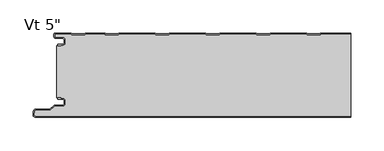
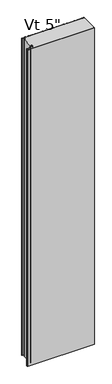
"""IFC4 building model written with IfcOpenShell, lengths in millimetres: plate geometry."""

from ifc_helpers import new_model, si_unit, point, frame, frame_2d, origin, origin_with_axes, place, context, project, spatial, polyline, circle_curve, trimmed, segment, composite_curve, outline, extrude, source, transform, mapped, element, save
from ifc_brep_helpers import plane_surface, cylinder_surface, revolved_surface, advanced_brep


def plate_c9e07188(model_context):
    return source(origin(), model_context, "Body", "SolidModel", [
        advanced_brep(
        [(-219.9686911, -17.0015243, 2400.0), (-220.9686883, -18.0015275, 2400.0), (-219.9686911, -19.0015188, 2400.0), (-215.9684874, -19.0015188, 2400.0), (-215.9684874, -18.0015243, 2400.0), (-213.2762776, -18.0015243, 2400.0), (-209.9762819, -14.7015286, 2400.0), (-209.9762819, -10.3015374, 2400.0), (-213.2762774, -7.0015419, 2400.0), (-223.6962563, -7.0015419, 2400.0), (-225.4662505, -5.2315477, 2400.0), (-225.4662505, -1.0, 2400.0), (-200.9659739, -1.0, 2400.0), (-199.5803313, -2.2002391, 2400.0), (-180.205165, -2.2002391, 2400.0), (-178.819532, -1.0000084, 2400.0), (-150.1661166, -1.0000084, 2400.0), (-148.7804837, -2.2002391, 2400.0), (-129.4053174, -2.2002391, 2400.0), (-128.0196844, -1.0000084, 2400.0), (-73.966269, -1.0000084, 2400.0), (-72.5806361, -2.2002391, 2400.0), (-53.2054698, -2.2002391, 2400.0), (-51.8198368, -1.0000084, 2400.0), (2.2335786, -1.0000084, 2400.0), (3.6192115, -2.2002391, 2400.0), (22.9943778, -2.2002391, 2400.0), (24.3800108, -1.0000084, 2400.0), (78.4334262, -1.0000084, 2400.0), (79.8190591, -2.2002391, 2400.0), (99.1942254, -2.2002391, 2400.0), (100.5798584, -1.0000084, 2400.0), (154.6332738, -1.0000084, 2400.0), (156.0189067, -2.2002391, 2400.0), (175.394073, -2.2002391, 2400.0), (176.779706, -1.0000084, 2400.0), (221.9999998, -1.0000084, 2400.0), (221.9999998, -8.4e-06, 2400.0), (176.9288571, -8.4e-06, 2400.0), (176.0122402, -0.3417969, 2400.0), (175.0211926, -1.2002391, 2400.0), (156.3917872, -1.2002391, 2400.0), (155.4007395, -0.3417969, 2400.0), (154.4841226, -8.4e-06, 2400.0), (100.7290095, -8.4e-06, 2400.0), (99.8123926, -0.3417969, 2400.0), (98.821345, -1.2002391, 2400.0), (80.1919396, -1.2002391, 2400.0), (79.2008919, -0.3417969, 2400.0), (78.284275, -8.4e-06, 2400.0), (24.5291619, -8.4e-06, 2400.0), (23.612545, -0.3417969, 2400.0), (22.6214974, -1.2002391, 2400.0), (3.992092, -1.2002391, 2400.0), (3.0010443, -0.3417969, 2400.0), (2.0844274, -8.4e-06, 2400.0), (-51.6706857, -8.4e-06, 2400.0), (-52.5873026, -0.3417969, 2400.0), (-53.5783502, -1.2002391, 2400.0), (-72.2077556, -1.2002391, 2400.0), (-73.1988033, -0.3417969, 2400.0), (-74.1154202, -8.4e-06, 2400.0), (-127.8705333, -8.4e-06, 2400.0), (-128.7871502, -0.3417969, 2400.0), (-129.7781978, -1.2002391, 2400.0), (-148.4076032, -1.2002391, 2400.0), (-149.3986509, -0.3417969, 2400.0), (-150.3152678, -8.4e-06, 2400.0), (-178.6703809, -8.4e-06, 2400.0), (-179.5869978, -0.3417969, 2400.0), (-180.5780454, -1.2002391, 2400.0), (-199.2074508, -1.2002391, 2400.0), (-200.1984985, -0.3417969, 2400.0), (-201.1152068, -8.4e-06, 2400.0), (-225.0662544, 0.0, 2400.0), (-226.4662505, -1.3999962, 2400.0), (-226.4662505, -5.2315477, 2400.0), (-223.6962563, -8.0015419, 2400.0), (-213.2762774, -8.0015419, 2400.0), (-210.9762819, -10.3015374, 2400.0), (-210.9762819, -14.7015286, 2400.0), (-213.2762776, -17.0015243, 2400.0), (-219.9686911, -17.0015243, 0.0), (-213.2762776, -17.0015243, 0.0), (-210.9762819, -14.7015286, 0.0), (-210.9762819, -10.3015374, 0.0), (-213.2762774, -8.0015419, 0.0), (-223.6962563, -8.0015419, 0.0), (-226.4662505, -5.2315477, 0.0), (-226.4662505, -1.3999962, 0.0), (-225.0662544, 0.0, 0.0), (-201.1151154, 0.0, 0.0), (-200.1984985, -0.3417969, 0.0), (-199.2074508, -1.2002391, 0.0), (-180.5780454, -1.2002391, 0.0), (-179.5869978, -0.3417969, 0.0), (-178.6703809, -8.4e-06, 0.0), (-150.3152678, -8.4e-06, 0.0), (-149.3986509, -0.3417969, 0.0), (-148.4076032, -1.2002391, 0.0), (-129.7781978, -1.2002391, 0.0), (-128.7871502, -0.3417969, 0.0), (-127.8705333, -8.4e-06, 0.0), (-74.1154202, -8.4e-06, 0.0), (-73.1988033, -0.3417969, 0.0), (-72.2077556, -1.2002391, 0.0), (-53.5783502, -1.2002391, 0.0), (-52.5873026, -0.3417969, 0.0), (-51.6706857, -8.4e-06, 0.0), (2.0844274, -8.4e-06, 0.0), (3.0010443, -0.3417969, 0.0), (3.992092, -1.2002391, 0.0), (22.6214974, -1.2002391, 0.0), (23.612545, -0.3417969, 0.0), (24.5291619, -8.4e-06, 0.0), (78.284275, -8.4e-06, 0.0), (79.2008919, -0.3417969, 0.0), (80.1919396, -1.2002391, 0.0), (98.821345, -1.2002391, 0.0), (99.8123926, -0.3417969, 0.0), (100.7290095, -8.4e-06, 0.0), (154.4841226, -8.4e-06, 0.0), (155.4007395, -0.3417969, 0.0), (156.3917872, -1.2002391, 0.0), (175.0211926, -1.2002391, 0.0), (176.0122402, -0.3417969, 0.0), (176.9288571, -8.4e-06, 0.0), (221.9999998, -8.4e-06, 0.0), (221.9999998, -1.0000084, 0.0), (176.779706, -1.0000084, 0.0), (175.394073, -2.2002391, 0.0), (156.0189067, -2.2002391, 0.0), (154.6332738, -1.0000084, 0.0), (100.5798584, -1.0000084, 0.0), (99.1942254, -2.2002391, 0.0), (79.8190591, -2.2002391, 0.0), (78.4334262, -1.0000084, 0.0), (24.3800108, -1.0000084, 0.0), (22.9943778, -2.2002391, 0.0), (3.6192115, -2.2002391, 0.0), (2.2335786, -1.0000084, 0.0), (-51.8198368, -1.0000084, 0.0), (-53.2054698, -2.2002391, 0.0), (-72.5806361, -2.2002391, 0.0), (-73.966269, -1.0000084, 0.0), (-128.0196844, -1.0000084, 0.0), (-129.4053174, -2.2002391, 0.0), (-148.7804837, -2.2002391, 0.0), (-150.1661166, -1.0000084, 0.0), (-178.819532, -1.0000084, 0.0), (-180.205165, -2.2002391, 0.0), (-199.5803313, -2.2002391, 0.0), (-200.9659739, -1.0, 0.0), (-225.4662505, -1.0, 0.0), (-225.4662505, -5.2315477, 0.0), (-223.6962563, -7.0015419, 0.0), (-213.2762774, -7.0015419, 0.0), (-209.9762819, -10.3015374, 0.0), (-209.9762819, -14.7015286, 0.0), (-213.2762776, -18.0015243, 0.0), (-215.9684874, -18.0015243, 0.0), (-215.9684874, -19.0015188, 0.0), (-219.9686911, -19.0015188, 0.0), (-220.9686883, -18.0015275, 0.0)],
        [
            (0, 1, circle_curve(frame((-219.9686911, -18.0015215, 2400.0), z_axis=(0.0, 0.0, 1.0), x_axis=(1.0, 0.0, 0.0)), 0.9999973)),
            (1, 2, circle_curve(frame((-219.9686911, -18.0015216, 2400.0), z_axis=(0.0, 0.0, 1.0), x_axis=(1.0, 0.0, 0.0)), 0.9999972)),
            (2, 3),
            (3, 4),
            (4, 5),
            (5, 6, circle_curve(frame((-213.2762776, -14.7015286, 2400.0), z_axis=(0.0, 0.0, 1.0), x_axis=(1.0, 0.0, 0.0)), 3.2999957)),
            (6, 7),
            (7, 8, circle_curve(frame((-213.2762774, -10.3015374, 2400.0), z_axis=(0.0, 0.0, 1.0), x_axis=(1.0, 0.0, 0.0)), 3.2999955)),
            (8, 9),
            (9, 10, circle_curve(frame((-223.6962563, -5.2315477, 2400.0), z_axis=(0.0, 0.0, -1.0), x_axis=(1.0, 0.0, 0.0)), 1.7699942)),
            (10, 11),
            (11, 12),
            (12, 13),
            (13, 14),
            (14, 15),
            (15, 16),
            (16, 17),
            (17, 18),
            (18, 19),
            (19, 20),
            (20, 21),
            (21, 22),
            (22, 23),
            (23, 24),
            (24, 25),
            (25, 26),
            (26, 27),
            (27, 28),
            (28, 29),
            (29, 30),
            (30, 31),
            (31, 32),
            (32, 33),
            (33, 34),
            (34, 35),
            (35, 36),
            (36, 37),
            (37, 38),
            (38, 39, circle_curve(frame((176.9288571, -1.4000056, 2400.0), z_axis=(0.0, 0.0, 1.0), x_axis=(1.0, 0.0, 0.0)), 1.3999972)),
            (39, 40),
            (40, 41),
            (41, 42),
            (42, 43, circle_curve(frame((154.4841226, -1.4000056, 2400.0), z_axis=(0.0, 0.0, 1.0), x_axis=(1.0, 0.0, 0.0)), 1.3999972)),
            (43, 44),
            (44, 45, circle_curve(frame((100.7290095, -1.4000056, 2400.0), z_axis=(0.0, 0.0, 1.0), x_axis=(1.0, 0.0, 0.0)), 1.3999972)),
            (45, 46),
            (46, 47),
            (47, 48),
            (48, 49, circle_curve(frame((78.284275, -1.4000056, 2400.0), z_axis=(0.0, 0.0, 1.0), x_axis=(1.0, 0.0, 0.0)), 1.3999972)),
            (49, 50),
            (50, 51, circle_curve(frame((24.5291619, -1.4000056, 2400.0), z_axis=(0.0, 0.0, 1.0), x_axis=(1.0, 0.0, 0.0)), 1.3999972)),
            (51, 52),
            (52, 53),
            (53, 54),
            (54, 55, circle_curve(frame((2.0844274, -1.4000056, 2400.0), z_axis=(0.0, 0.0, 1.0), x_axis=(1.0, 0.0, 0.0)), 1.3999972)),
            (55, 56),
            (56, 57, circle_curve(frame((-51.6706857, -1.4000056, 2400.0), z_axis=(0.0, 0.0, 1.0), x_axis=(1.0, 0.0, 0.0)), 1.3999972)),
            (57, 58),
            (58, 59),
            (59, 60),
            (60, 61, circle_curve(frame((-74.1154202, -1.4000056, 2400.0), z_axis=(0.0, 0.0, 1.0), x_axis=(1.0, 0.0, 0.0)), 1.3999972)),
            (61, 62),
            (62, 63, circle_curve(frame((-127.8705333, -1.4000056, 2400.0), z_axis=(0.0, 0.0, 1.0), x_axis=(1.0, 0.0, 0.0)), 1.3999972)),
            (63, 64),
            (64, 65),
            (65, 66),
            (66, 67, circle_curve(frame((-150.3152678, -1.4000056, 2400.0), z_axis=(0.0, 0.0, 1.0), x_axis=(1.0, 0.0, 0.0)), 1.3999972)),
            (67, 68),
            (68, 69, circle_curve(frame((-178.6703809, -1.4000056, 2400.0), z_axis=(0.0, 0.0, 1.0), x_axis=(1.0, 0.0, 0.0)), 1.3999972)),
            (69, 70),
            (70, 71),
            (71, 72),
            (72, 73, circle_curve(frame((-201.1151154, -1.4000056, 2400.0), z_axis=(0.0, 0.0, 1.0), x_axis=(1.0, 0.0, 0.0)), 1.3999972)),
            (73, 74),
            (74, 75, circle_curve(frame((-225.0662544, -1.3999962, 2400.0), z_axis=(0.0, 0.0, 1.0), x_axis=(1.0, 0.0, 0.0)), 1.3999962)),
            (75, 76),
            (76, 77, circle_curve(frame((-223.6962563, -5.2315477, 2400.0), z_axis=(0.0, 0.0, 1.0), x_axis=(1.0, 0.0, 0.0)), 2.7699942)),
            (77, 78),
            (78, 79, circle_curve(frame((-213.2762774, -10.3015374, 2400.0), z_axis=(0.0, 0.0, -1.0), x_axis=(1.0, 0.0, 0.0)), 2.2999955)),
            (79, 80),
            (80, 81, circle_curve(frame((-213.2762776, -14.7015286, 2400.0), z_axis=(0.0, 0.0, -1.0), x_axis=(1.0, 0.0, 0.0)), 2.2999957)),
            (81, 0),
            (82, 83),
            (83, 84, circle_curve(frame((-213.2762776, -14.7015286, 0.0), z_axis=(0.0, 0.0, 1.0), x_axis=(1.0, 0.0, 0.0)), 2.2999957)),
            (84, 85),
            (85, 86, circle_curve(frame((-213.2762774, -10.3015374, 0.0), z_axis=(0.0, 0.0, 1.0), x_axis=(1.0, 0.0, 0.0)), 2.2999955)),
            (86, 87),
            (87, 88, circle_curve(frame((-223.6962563, -5.2315477, 0.0), z_axis=(0.0, 0.0, -1.0), x_axis=(1.0, 0.0, 0.0)), 2.7699942)),
            (88, 89),
            (89, 90, circle_curve(frame((-225.0662544, -1.3999962, 0.0), z_axis=(0.0, 0.0, -1.0), x_axis=(1.0, 0.0, 0.0)), 1.3999962)),
            (90, 91),
            (91, 92, circle_curve(frame((-201.1151154, -1.4000056, 0.0), z_axis=(0.0, 0.0, -1.0), x_axis=(1.0, 0.0, 0.0)), 1.3999972)),
            (92, 93),
            (93, 94),
            (94, 95),
            (95, 96, circle_curve(frame((-178.6703809, -1.4000056, 0.0), z_axis=(0.0, 0.0, -1.0), x_axis=(1.0, 0.0, 0.0)), 1.3999972)),
            (96, 97),
            (97, 98, circle_curve(frame((-150.3152678, -1.4000056, 0.0), z_axis=(0.0, 0.0, -1.0), x_axis=(1.0, 0.0, 0.0)), 1.3999972)),
            (98, 99),
            (99, 100),
            (100, 101),
            (101, 102, circle_curve(frame((-127.8705333, -1.4000056, 0.0), z_axis=(0.0, 0.0, -1.0), x_axis=(1.0, 0.0, 0.0)), 1.3999972)),
            (102, 103),
            (103, 104, circle_curve(frame((-74.1154202, -1.4000056, 0.0), z_axis=(0.0, 0.0, -1.0), x_axis=(1.0, 0.0, 0.0)), 1.3999972)),
            (104, 105),
            (105, 106),
            (106, 107),
            (107, 108, circle_curve(frame((-51.6706857, -1.4000056, 0.0), z_axis=(0.0, 0.0, -1.0), x_axis=(1.0, 0.0, 0.0)), 1.3999972)),
            (108, 109),
            (109, 110, circle_curve(frame((2.0844274, -1.4000056, 0.0), z_axis=(0.0, 0.0, -1.0), x_axis=(1.0, 0.0, 0.0)), 1.3999972)),
            (110, 111),
            (111, 112),
            (112, 113),
            (113, 114, circle_curve(frame((24.5291619, -1.4000056, 0.0), z_axis=(0.0, 0.0, -1.0), x_axis=(1.0, 0.0, 0.0)), 1.3999972)),
            (114, 115),
            (115, 116, circle_curve(frame((78.284275, -1.4000056, 0.0), z_axis=(0.0, 0.0, -1.0), x_axis=(1.0, 0.0, 0.0)), 1.3999972)),
            (116, 117),
            (117, 118),
            (118, 119),
            (119, 120, circle_curve(frame((100.7290095, -1.4000056, 0.0), z_axis=(0.0, 0.0, -1.0), x_axis=(1.0, 0.0, 0.0)), 1.3999972)),
            (120, 121),
            (121, 122, circle_curve(frame((154.4841226, -1.4000056, 0.0), z_axis=(0.0, 0.0, -1.0), x_axis=(1.0, 0.0, 0.0)), 1.3999972)),
            (122, 123),
            (123, 124),
            (124, 125),
            (125, 126, circle_curve(frame((176.9288571, -1.4000056, 0.0), z_axis=(0.0, 0.0, -1.0), x_axis=(1.0, 0.0, 0.0)), 1.3999972)),
            (126, 127),
            (127, 128),
            (128, 129),
            (129, 130),
            (130, 131),
            (131, 132),
            (132, 133),
            (133, 134),
            (134, 135),
            (135, 136),
            (136, 137),
            (137, 138),
            (138, 139),
            (139, 140),
            (140, 141),
            (141, 142),
            (142, 143),
            (143, 144),
            (144, 145),
            (145, 146),
            (146, 147),
            (147, 148),
            (148, 149),
            (149, 150),
            (150, 151),
            (151, 152),
            (152, 153),
            (153, 154),
            (154, 155, circle_curve(frame((-223.6962563, -5.2315477, 0.0), z_axis=(0.0, 0.0, 1.0), x_axis=(1.0, 0.0, 0.0)), 1.7699942)),
            (155, 156),
            (156, 157, circle_curve(frame((-213.2762774, -10.3015374, 0.0), z_axis=(0.0, 0.0, -1.0), x_axis=(1.0, 0.0, 0.0)), 3.2999955)),
            (157, 158),
            (158, 159, circle_curve(frame((-213.2762776, -14.7015286, 0.0), z_axis=(0.0, 0.0, -1.0), x_axis=(1.0, 0.0, 0.0)), 3.2999957)),
            (159, 160),
            (160, 161),
            (161, 162),
            (162, 163, circle_curve(frame((-219.9686911, -18.0015216, 0.0), z_axis=(0.0, 0.0, -1.0), x_axis=(1.0, 0.0, 0.0)), 0.9999972)),
            (163, 82, circle_curve(frame((-219.9686911, -18.0015215, 0.0), z_axis=(0.0, 0.0, -1.0), x_axis=(1.0, 0.0, 0.0)), 0.9999973)),
            (36, 128),
            (127, 37),
            (81, 83),
            (82, 0),
            (80, 84),
            (79, 85),
            (78, 86),
            (77, 87),
            (76, 88),
            (75, 89),
            (74, 90),
            (73, 91),
            (72, 92),
            (71, 93),
            (70, 94),
            (69, 95),
            (68, 96),
            (67, 97),
            (66, 98),
            (65, 99),
            (64, 100),
            (63, 101),
            (62, 102),
            (61, 103),
            (60, 104),
            (59, 105),
            (58, 106),
            (57, 107),
            (56, 108),
            (55, 109),
            (54, 110),
            (53, 111),
            (52, 112),
            (51, 113),
            (50, 114),
            (49, 115),
            (48, 116),
            (47, 117),
            (46, 118),
            (45, 119),
            (44, 120),
            (43, 121),
            (42, 122),
            (41, 123),
            (40, 124),
            (39, 125),
            (38, 126),
            (35, 129),
            (34, 130),
            (33, 131),
            (32, 132),
            (31, 133),
            (30, 134),
            (29, 135),
            (28, 136),
            (27, 137),
            (26, 138),
            (25, 139),
            (24, 140),
            (23, 141),
            (22, 142),
            (21, 143),
            (20, 144),
            (19, 145),
            (18, 146),
            (17, 147),
            (16, 148),
            (15, 149),
            (14, 150),
            (13, 151),
            (12, 152),
            (11, 153),
            (10, 154),
            (9, 155),
            (8, 156),
            (7, 157),
            (6, 158),
            (5, 159),
            (4, 160),
            (3, 161),
            (2, 162),
            (1, 163),
        ],
        [
            plane_surface(frame((286.0000002, -8.4e-06, 2400.0), z_axis=(0.0, 0.0, 1.0), x_axis=(0.0, 1.0, 0.0))),
            plane_surface(frame((286.0000002, -8.4e-06, 0.0), z_axis=(0.0, 0.0, -1.0), x_axis=(0.0, 1.0, 0.0))),
            plane_surface(frame((221.9999998, -137.0000084, 2400.0), z_axis=(1.0, 0.0, 0.0), x_axis=(0.0, 0.0, -1.0))),
            plane_surface(frame((-219.9686911, -17.0015243, 2400.0), z_axis=(0.0, 1.0, 0.0), x_axis=(0.0, 0.0, -1.0))),
            revolved_surface(polyline([(-210.97628189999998, -14.7015286, 0.0), (-210.97628189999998, -14.7015286, 2400.0)]), (-213.2762776, -14.7015286, 2400.0), (0.0, 0.0, -1.0)),
            plane_surface(frame((-210.9762819, -14.7015286, 2400.0), z_axis=(-1.0, 0.0, 0.0), x_axis=(0.0, 0.0, -1.0))),
            revolved_surface(polyline([(-210.9762819, -10.3015374, 0.0), (-210.9762819, -10.3015374, 2400.0)]), (-213.2762774, -10.3015374, 2400.0), (0.0, 0.0, -1.0)),
            plane_surface(frame((-213.2762774, -8.0015419, 2400.0), z_axis=(0.0, -1.0, 0.0), x_axis=(0.0, 0.0, -1.0))),
            cylinder_surface(frame((-223.6962563, -5.2315477, 2400.0), z_axis=(0.0, 0.0, 1.0), x_axis=(1.0, 0.0, 0.0)), 2.7699942),
            plane_surface(frame((-226.4662505, -5.2315477, 2400.0), z_axis=(-1.0, 0.0, 0.0), x_axis=(0.0, 0.0, -1.0))),
            cylinder_surface(frame((-225.0662544, -1.3999962, 2400.0), z_axis=(0.0, 0.0, 1.0), x_axis=(1.0, 0.0, 0.0)), 1.3999962),
            plane_surface(frame((-225.0662544, 0.0, 2400.0), z_axis=(0.0, 1.0, 0.0), x_axis=(0.0, 0.0, -1.0))),
            cylinder_surface(frame((-201.1151154, -1.4000056, 2400.0), z_axis=(0.0, 0.0, 1.0), x_axis=(1.0, 0.0, 0.0)), 1.3999972),
            plane_surface(frame((-200.1984985, -0.3417969, 2400.0), z_axis=(0.6547276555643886, 0.755864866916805, 0.0), x_axis=(0.0, 0.0, -1.0))),
            plane_surface(frame((-189.8927481, -1.2002391, 2400.0), z_axis=(0.0, 1.0, 0.0), x_axis=(0.0, 0.0, -1.0))),
            plane_surface(frame((-180.5780454, -1.2002391, 2400.0), z_axis=(-0.6547276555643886, 0.755864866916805, 0.0), x_axis=(0.0, 0.0, -1.0))),
            cylinder_surface(frame((-178.6703809, -1.4000056, 2400.0), z_axis=(0.0, 0.0, 1.0), x_axis=(1.0, 0.0, 0.0)), 1.3999972),
            plane_surface(frame((-178.6703809, -8.4e-06, 2400.0), z_axis=(0.0, 1.0, 0.0), x_axis=(0.0, 0.0, -1.0))),
            cylinder_surface(frame((-150.3152678, -1.4000056, 2400.0), z_axis=(0.0, 0.0, 1.0), x_axis=(1.0, 0.0, 0.0)), 1.3999972),
            plane_surface(frame((-149.3986509, -0.3417969, 2400.0), z_axis=(0.6547276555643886, 0.755864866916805, 0.0), x_axis=(0.0, 0.0, -1.0))),
            plane_surface(frame((-139.0929005, -1.2002391, 2400.0), z_axis=(0.0, 1.0, 0.0), x_axis=(0.0, 0.0, -1.0))),
            plane_surface(frame((-129.7781978, -1.2002391, 2400.0), z_axis=(-0.6547276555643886, 0.755864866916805, 0.0), x_axis=(0.0, 0.0, -1.0))),
            cylinder_surface(frame((-127.8705333, -1.4000056, 2400.0), z_axis=(0.0, 0.0, 1.0), x_axis=(1.0, 0.0, 0.0)), 1.3999972),
            plane_surface(frame((-127.8705333, -8.4e-06, 2400.0), z_axis=(0.0, 1.0, 0.0), x_axis=(0.0, 0.0, -1.0))),
            cylinder_surface(frame((-74.1154202, -1.4000056, 2400.0), z_axis=(0.0, 0.0, 1.0), x_axis=(1.0, 0.0, 0.0)), 1.3999972),
            plane_surface(frame((-73.1988033, -0.3417969, 2400.0), z_axis=(0.6547276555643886, 0.755864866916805, 0.0), x_axis=(0.0, 0.0, -1.0))),
            plane_surface(frame((-62.8930529, -1.2002391, 2400.0), z_axis=(0.0, 1.0, 0.0), x_axis=(0.0, 0.0, -1.0))),
            plane_surface(frame((-53.5783502, -1.2002391, 2400.0), z_axis=(-0.6547276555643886, 0.755864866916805, 0.0), x_axis=(0.0, 0.0, -1.0))),
            cylinder_surface(frame((-51.6706857, -1.4000056, 2400.0), z_axis=(0.0, 0.0, 1.0), x_axis=(1.0, 0.0, 0.0)), 1.3999972),
            plane_surface(frame((-51.6706857, -8.4e-06, 2400.0), z_axis=(0.0, 1.0, 0.0), x_axis=(0.0, 0.0, -1.0))),
            cylinder_surface(frame((2.0844274, -1.4000056, 2400.0), z_axis=(0.0, 0.0, 1.0), x_axis=(1.0, 0.0, 0.0)), 1.3999972),
            plane_surface(frame((3.0010443, -0.3417969, 2400.0), z_axis=(0.6547276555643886, 0.755864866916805, 0.0), x_axis=(0.0, 0.0, -1.0))),
            plane_surface(frame((13.3067947, -1.2002391, 2400.0), z_axis=(0.0, 1.0, 0.0), x_axis=(0.0, 0.0, -1.0))),
            plane_surface(frame((22.6214974, -1.2002391, 2400.0), z_axis=(-0.6547276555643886, 0.755864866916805, 0.0), x_axis=(0.0, 0.0, -1.0))),
            cylinder_surface(frame((24.5291619, -1.4000056, 2400.0), z_axis=(0.0, 0.0, 1.0), x_axis=(1.0, 0.0, 0.0)), 1.3999972),
            plane_surface(frame((24.5291619, -8.4e-06, 2400.0), z_axis=(0.0, 1.0, 0.0), x_axis=(0.0, 0.0, -1.0))),
            cylinder_surface(frame((78.284275, -1.4000056, 2400.0), z_axis=(0.0, 0.0, 1.0), x_axis=(1.0, 0.0, 0.0)), 1.3999972),
            plane_surface(frame((79.2008919, -0.3417969, 2400.0), z_axis=(0.6547276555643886, 0.755864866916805, 0.0), x_axis=(0.0, 0.0, -1.0))),
            plane_surface(frame((89.5066423, -1.2002391, 2400.0), z_axis=(0.0, 1.0, 0.0), x_axis=(0.0, 0.0, -1.0))),
            plane_surface(frame((98.821345, -1.2002391, 2400.0), z_axis=(-0.6547276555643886, 0.755864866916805, 0.0), x_axis=(0.0, 0.0, -1.0))),
            cylinder_surface(frame((100.7290095, -1.4000056, 2400.0), z_axis=(0.0, 0.0, 1.0), x_axis=(1.0, 0.0, 0.0)), 1.3999972),
            plane_surface(frame((100.7290095, -8.4e-06, 2400.0), z_axis=(0.0, 1.0, 0.0), x_axis=(0.0, 0.0, -1.0))),
            cylinder_surface(frame((154.4841226, -1.4000056, 2400.0), z_axis=(0.0, 0.0, 1.0), x_axis=(1.0, 0.0, 0.0)), 1.3999972),
            plane_surface(frame((155.4007395, -0.3417969, 2400.0), z_axis=(0.6547276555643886, 0.755864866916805, 0.0), x_axis=(0.0, 0.0, -1.0))),
            plane_surface(frame((165.7064899, -1.2002391, 2400.0), z_axis=(0.0, 1.0, 0.0), x_axis=(0.0, 0.0, -1.0))),
            plane_surface(frame((175.0211926, -1.2002391, 2400.0), z_axis=(-0.6547276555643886, 0.755864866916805, 0.0), x_axis=(0.0, 0.0, -1.0))),
            cylinder_surface(frame((176.9288571, -1.4000056, 2400.0), z_axis=(0.0, 0.0, 1.0), x_axis=(1.0, 0.0, 0.0)), 1.3999972),
            plane_surface(frame((176.9288571, -8.4e-06, 2400.0), z_axis=(0.0, 1.0, 0.0), x_axis=(0.0, 0.0, -1.0))),
            plane_surface(frame((230.8331214, -1.0000084, 2400.0), z_axis=(0.0, -1.0, 0.0), x_axis=(0.0, 0.0, -1.0))),
            plane_surface(frame((176.779706, -1.0000084, 2400.0), z_axis=(0.6547276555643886, -0.755864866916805, 0.0), x_axis=(0.0, 0.0, -1.0))),
            plane_surface(frame((175.394073, -2.2002391, 2400.0), z_axis=(0.0, -1.0, 0.0), x_axis=(0.0, 0.0, -1.0))),
            plane_surface(frame((156.0189067, -2.2002391, 2400.0), z_axis=(-0.6547276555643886, -0.755864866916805, 0.0), x_axis=(0.0, 0.0, -1.0))),
            plane_surface(frame((154.6332738, -1.0000084, 2400.0), z_axis=(0.0, -1.0, 0.0), x_axis=(0.0, 0.0, -1.0))),
            plane_surface(frame((100.5798584, -1.0000084, 2400.0), z_axis=(0.6547276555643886, -0.755864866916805, 0.0), x_axis=(0.0, 0.0, -1.0))),
            plane_surface(frame((99.1942254, -2.2002391, 2400.0), z_axis=(0.0, -1.0, 0.0), x_axis=(0.0, 0.0, -1.0))),
            plane_surface(frame((79.8190591, -2.2002391, 2400.0), z_axis=(-0.6547276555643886, -0.755864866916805, 0.0), x_axis=(0.0, 0.0, -1.0))),
            plane_surface(frame((78.4334262, -1.0000084, 2400.0), z_axis=(0.0, -1.0, 0.0), x_axis=(0.0, 0.0, -1.0))),
            plane_surface(frame((24.3800108, -1.0000084, 2400.0), z_axis=(0.6547276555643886, -0.755864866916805, 0.0), x_axis=(0.0, 0.0, -1.0))),
            plane_surface(frame((22.9943778, -2.2002391, 2400.0), z_axis=(0.0, -1.0, 0.0), x_axis=(0.0, 0.0, -1.0))),
            plane_surface(frame((3.6192115, -2.2002391, 2400.0), z_axis=(-0.6547276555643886, -0.755864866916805, 0.0), x_axis=(0.0, 0.0, -1.0))),
            plane_surface(frame((2.2335786, -1.0000084, 2400.0), z_axis=(0.0, -1.0, 0.0), x_axis=(0.0, 0.0, -1.0))),
            plane_surface(frame((-51.8198368, -1.0000084, 2400.0), z_axis=(0.6547276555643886, -0.755864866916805, 0.0), x_axis=(0.0, 0.0, -1.0))),
            plane_surface(frame((-53.2054698, -2.2002391, 2400.0), z_axis=(0.0, -1.0, 0.0), x_axis=(0.0, 0.0, -1.0))),
            plane_surface(frame((-72.5806361, -2.2002391, 2400.0), z_axis=(-0.6547276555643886, -0.755864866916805, 0.0), x_axis=(0.0, 0.0, -1.0))),
            plane_surface(frame((-73.966269, -1.0000084, 2400.0), z_axis=(0.0, -1.0, 0.0), x_axis=(0.0, 0.0, -1.0))),
            plane_surface(frame((-128.0196844, -1.0000084, 2400.0), z_axis=(0.6547276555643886, -0.755864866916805, 0.0), x_axis=(0.0, 0.0, -1.0))),
            plane_surface(frame((-129.4053174, -2.2002391, 2400.0), z_axis=(0.0, -1.0, 0.0), x_axis=(0.0, 0.0, -1.0))),
            plane_surface(frame((-148.7804837, -2.2002391, 2400.0), z_axis=(-0.6547276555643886, -0.755864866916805, 0.0), x_axis=(0.0, 0.0, -1.0))),
            plane_surface(frame((-150.1661166, -1.0000084, 2400.0), z_axis=(0.0, -1.0, 0.0), x_axis=(0.0, 0.0, -1.0))),
            plane_surface(frame((-178.819532, -1.0000084, 2400.0), z_axis=(0.6547276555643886, -0.755864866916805, 0.0), x_axis=(0.0, 0.0, -1.0))),
            plane_surface(frame((-180.205165, -2.2002391, 2400.0), z_axis=(0.0, -1.0, 0.0), x_axis=(0.0, 0.0, -1.0))),
            plane_surface(frame((-199.5803313, -2.2002391, 2400.0), z_axis=(-0.6547276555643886, -0.755864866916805, 0.0), x_axis=(0.0, 0.0, -1.0))),
            plane_surface(frame((-200.9659739, -1.0, 2400.0), z_axis=(0.0, -1.0, 0.0), x_axis=(0.0, 0.0, -1.0))),
            plane_surface(frame((-225.4662505, -1.0, 2400.0), z_axis=(1.0, 0.0, 0.0), x_axis=(0.0, 0.0, -1.0))),
            revolved_surface(polyline([(-221.92626209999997, -5.2315477, 0.0), (-221.92626209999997, -5.2315477, 2400.0)]), (-223.6962563, -5.2315477, 2400.0), (0.0, 0.0, -1.0)),
            plane_surface(frame((-223.6962563, -7.0015419, 2400.0), z_axis=(0.0, 1.0, 0.0), x_axis=(0.0, 0.0, -1.0))),
            cylinder_surface(frame((-213.2762774, -10.3015374, 2400.0), z_axis=(0.0, 0.0, 1.0), x_axis=(1.0, 0.0, 0.0)), 3.2999955),
            plane_surface(frame((-209.9762819, -10.3015374, 2400.0), z_axis=(1.0, 0.0, 0.0), x_axis=(0.0, 0.0, -1.0))),
            cylinder_surface(frame((-213.2762776, -14.7015286, 2400.0), z_axis=(0.0, 0.0, 1.0), x_axis=(1.0, 0.0, 0.0)), 3.2999957),
            plane_surface(frame((-213.2762776, -18.0015243, 2400.0), z_axis=(0.0, -1.0, 0.0), x_axis=(0.0, 0.0, -1.0))),
            plane_surface(frame((-215.9684874, -18.0015243, 2400.0), z_axis=(1.0, 0.0, 0.0), x_axis=(0.0, 0.0, -1.0))),
            plane_surface(frame((-215.9684874, -19.0015188, 2400.0), z_axis=(0.0, -1.0, 0.0), x_axis=(0.0, 0.0, -1.0))),
            cylinder_surface(frame((-219.9686911, -18.0015216, 2400.0), z_axis=(0.0, 0.0, 1.0), x_axis=(1.0, 0.0, 0.0)), 0.9999972),
            cylinder_surface(frame((-219.9686911, -18.0015215, 2400.0), z_axis=(0.0, 0.0, 1.0), x_axis=(1.0, 0.0, 0.0)), 0.9999973),
        ],
        [
            (0, [[1, 2, 3, 4, 5, 6, 7, 8, 9, 10, 11, 12, 13, 14, 15, 16, 17, 18, 19, 20, 21, 22, 23, 24, 25, 26, 27, 28, 29, 30, 31, 32, 33, 34, 35, 36, 37, 38, 39, 40, 41, 42, 43, 44, 45, 46, 47, 48, 49, 50, 51, 52, 53, 54, 55, 56, 57, 58, 59, 60, 61, 62, 63, 64, 65, 66, 67, 68, 69, 70, 71, 72, 73, 74, 75, 76, 77, 78, 79, 80, 81, 82]]),
            (1, [[83, 84, 85, 86, 87, 88, 89, 90, 91, 92, 93, 94, 95, 96, 97, 98, 99, 100, 101, 102, 103, 104, 105, 106, 107, 108, 109, 110, 111, 112, 113, 114, 115, 116, 117, 118, 119, 120, 121, 122, 123, 124, 125, 126, 127, 128, 129, 130, 131, 132, 133, 134, 135, 136, 137, 138, 139, 140, 141, 142, 143, 144, 145, 146, 147, 148, 149, 150, 151, 152, 153, 154, 155, 156, 157, 158, 159, 160, 161, 162, 163, 164]]),
            (2, [[165, -128, 166, -37]]),
            (3, [[167, -83, 168, -82]]),
            (4, [[169, -84, -167, -81]]),
            (5, [[170, -85, -169, -80]]),
            (6, [[171, -86, -170, -79]]),
            (7, [[172, -87, -171, -78]]),
            (8, [[173, -88, -172, -77]]),
            (9, [[174, -89, -173, -76]]),
            (10, [[175, -90, -174, -75]]),
            (11, [[176, -91, -175, -74]]),
            (12, [[177, -92, -176, -73]]),
            (13, [[178, -93, -177, -72]]),
            (14, [[179, -94, -178, -71]]),
            (15, [[180, -95, -179, -70]]),
            (16, [[181, -96, -180, -69]]),
            (17, [[182, -97, -181, -68]]),
            (18, [[183, -98, -182, -67]]),
            (19, [[184, -99, -183, -66]]),
            (20, [[185, -100, -184, -65]]),
            (21, [[186, -101, -185, -64]]),
            (22, [[187, -102, -186, -63]]),
            (23, [[188, -103, -187, -62]]),
            (24, [[189, -104, -188, -61]]),
            (25, [[190, -105, -189, -60]]),
            (26, [[191, -106, -190, -59]]),
            (27, [[192, -107, -191, -58]]),
            (28, [[193, -108, -192, -57]]),
            (29, [[194, -109, -193, -56]]),
            (30, [[195, -110, -194, -55]]),
            (31, [[196, -111, -195, -54]]),
            (32, [[197, -112, -196, -53]]),
            (33, [[198, -113, -197, -52]]),
            (34, [[199, -114, -198, -51]]),
            (35, [[200, -115, -199, -50]]),
            (36, [[201, -116, -200, -49]]),
            (37, [[202, -117, -201, -48]]),
            (38, [[203, -118, -202, -47]]),
            (39, [[204, -119, -203, -46]]),
            (40, [[205, -120, -204, -45]]),
            (41, [[206, -121, -205, -44]]),
            (42, [[207, -122, -206, -43]]),
            (43, [[208, -123, -207, -42]]),
            (44, [[209, -124, -208, -41]]),
            (45, [[210, -125, -209, -40]]),
            (46, [[211, -126, -210, -39]]),
            (47, [[-38, -166, -127, -211]]),
            (48, [[-129, -165, -36, 212]]),
            (49, [[213, -130, -212, -35]]),
            (50, [[214, -131, -213, -34]]),
            (51, [[215, -132, -214, -33]]),
            (52, [[216, -133, -215, -32]]),
            (53, [[217, -134, -216, -31]]),
            (54, [[218, -135, -217, -30]]),
            (55, [[219, -136, -218, -29]]),
            (56, [[220, -137, -219, -28]]),
            (57, [[221, -138, -220, -27]]),
            (58, [[222, -139, -221, -26]]),
            (59, [[223, -140, -222, -25]]),
            (60, [[224, -141, -223, -24]]),
            (61, [[225, -142, -224, -23]]),
            (62, [[226, -143, -225, -22]]),
            (63, [[227, -144, -226, -21]]),
            (64, [[228, -145, -227, -20]]),
            (65, [[229, -146, -228, -19]]),
            (66, [[230, -147, -229, -18]]),
            (67, [[231, -148, -230, -17]]),
            (68, [[232, -149, -231, -16]]),
            (69, [[233, -150, -232, -15]]),
            (70, [[234, -151, -233, -14]]),
            (71, [[235, -152, -234, -13]]),
            (72, [[236, -153, -235, -12]]),
            (73, [[237, -154, -236, -11]]),
            (74, [[238, -155, -237, -10]]),
            (75, [[239, -156, -238, -9]]),
            (76, [[240, -157, -239, -8]]),
            (77, [[241, -158, -240, -7]]),
            (78, [[242, -159, -241, -6]]),
            (79, [[243, -160, -242, -5]]),
            (80, [[244, -161, -243, -4]]),
            (81, [[245, -162, -244, -3]]),
            (82, [[246, -163, -245, -2]]),
            (83, [[-168, -164, -246, -1]]),
        ],
    ),
        extrude(outline(composite_curve([segment(polyline([(-258.0087619, -123.1184987), (-257.5690674, -118.0944521)]), True, "CONTINUOUS"), segment(trimmed(circle_curve(frame_2d((-253.9198391, -118.7052532)), 3.6999926), [point((-257.5690674, -118.0944521))], [point((-253.9198391, -115.0052606))], False, "CARTESIAN"), True, "CONTINUOUS"), segment(polyline([(-253.9198391, -115.0052606), (-232.7773995, -115.0052606)]), True, "CONTINUOUS"), segment(trimmed(circle_curve(frame_2d((-232.7773995, -113.7052632)), 1.2999974), [point((-232.7773995, -115.0052606))], [point((-231.8581626, -114.6245001))], True, "CARTESIAN"), True, "CONTINUOUS"), segment(polyline([(-231.8581626, -114.6245001), (-227.0297451, -109.7960827)]), True, "CONTINUOUS"), segment(trimmed(circle_curve(frame_2d((-225.1205606, -111.7052672)), 2.6999946), [point((-227.0297451, -109.7960827))], [point((-225.1205606, -109.0052726))], False, "CARTESIAN"), True, "CONTINUOUS"), segment(polyline([(-225.1205606, -109.0052726), (-213.3096715, -109.0052726)]), True, "CONTINUOUS"), segment(trimmed(circle_curve(frame_2d((-213.3096715, -106.6552773)), 2.3499953), [point((-213.3096715, -109.0052726))], [point((-210.9596762, -106.6552773))], True, "CARTESIAN"), True, "CONTINUOUS"), segment(polyline([(-210.9596762, -106.6552773), (-210.9596762, -102.2552861)]), True, "CONTINUOUS"), segment(trimmed(circle_curve(frame_2d((-213.3096715, -102.2552861)), 2.3499953), [point((-210.9596762, -102.2552861))], [point((-213.3096715, -99.9052908))], True, "CARTESIAN"), True, "CONTINUOUS"), segment(polyline([(-213.3096715, -99.9052908), (-219.8289777, -99.9052908)]), True, "CONTINUOUS"), segment(trimmed(circle_curve(frame_2d((-219.7686906, -98.7068085)), 1.1999976), [point((-219.8289777, -99.9052908))], [point((-220.9683, -98.6762866))], False, "CARTESIAN"), True, "CONTINUOUS"), segment(trimmed(circle_curve(frame_2d((-219.7686906, -98.7068085)), 1.1999976), [point((-220.9683, -98.6762866))], [point((-219.767176, -97.5068119))], False, "CARTESIAN"), True, "CONTINUOUS"), segment(polyline([(-219.767176, -97.5068119), (-216.0087826, -97.5068119), (-216.0087826, -98.9052908), (-213.3096715, -98.9052908)]), True, "CONTINUOUS"), segment(trimmed(circle_curve(frame_2d((-213.3096715, -102.2552861)), 3.3499953), [point((-213.3096715, -98.9052908))], [point((-209.9596762, -102.2552861))], False, "CARTESIAN"), True, "CONTINUOUS"), segment(polyline([(-209.9596762, -102.2552861), (-209.9596762, -106.6552773)]), True, "CONTINUOUS"), segment(trimmed(circle_curve(frame_2d((-213.3096715, -106.6552773)), 3.3499953), [point((-209.9596762, -106.6552773))], [point((-213.3096715, -110.0052726))], False, "CARTESIAN"), True, "CONTINUOUS"), segment(polyline([(-213.3096715, -110.0052726), (-225.1205606, -110.0052726)]), True, "CONTINUOUS"), segment(trimmed(circle_curve(frame_2d((-225.1205606, -111.7052672)), 1.6999946), [point((-225.1205606, -110.0052726))], [point((-226.3226383, -110.5031895))], True, "CARTESIAN"), True, "CONTINUOUS"), segment(polyline([(-226.3226383, -110.5031895), (-231.8247094, -116.0052606), (-253.9198391, -116.0052606)]), True, "CONTINUOUS"), segment(trimmed(circle_curve(frame_2d((-253.9198391, -118.7052532)), 2.6999926), [point((-253.9198391, -116.0052606))], [point((-256.5765707, -118.2238626))], True, "CARTESIAN"), True, "CONTINUOUS"), segment(polyline([(-256.5765707, -118.2238626), (-257.0125697, -123.2056834)]), True, "CONTINUOUS"), segment(trimmed(circle_curve(frame_2d((-254.4521175, -123.4297691)), 2.5702393), [point((-257.0125697, -123.2056834))], [point((-254.5094458, -125.9993689))], True, "CARTESIAN"), True, "CONTINUOUS"), segment(polyline([(-254.5094458, -125.9993689), (221.9999998, -125.9993689), (221.9999998, -126.9997037), (-254.4521152, -127.0000084)]), True, "CONTINUOUS"), segment(trimmed(circle_curve(frame_2d((-254.4521175, -123.4297691)), 3.5702393), [point((-254.4521152, -127.0000084))], [point((-258.0087619, -123.1184987))], False, "CARTESIAN"), True, "CONTINUOUS")], self_intersect=False)), origin_with_axes(), (0.0, 0.0, 1.0), 2400.0),
        advanced_brep(
        [(-220.9683, -98.6708833, 2400.0), (-219.767176, -97.5014086, 2400.0), (-216.0087826, -97.5014086, 2400.0), (-216.0087826, -98.8998875, 2400.0), (-213.3096715, -98.8998875, 2400.0), (-209.9596762, -102.2498828, 2400.0), (-209.9596762, -106.649874, 2400.0), (-213.3096715, -109.9998693, 2400.0), (-225.1205606, -109.9998693, 2400.0), (-226.3226383, -110.4977862, 2400.0), (-231.8247094, -115.9998573, 2400.0), (-253.9198391, -115.9998573, 2400.0), (-256.5765707, -118.2184593, 2400.0), (-257.0125697, -123.2002802, 2400.0), (-254.4521175, -125.9946051, 2400.0), (221.9999998, -126.0000084, 2400.0), (221.9999998, -1.0000084, 2400.0), (176.779706, -1.0000084, 2400.0), (175.3940731, -2.2002391, 2400.0), (156.0189068, -2.2002391, 2400.0), (154.6332738, -1.0000084, 2400.0), (100.5798584, -1.0000084, 2400.0), (99.1942255, -2.2002391, 2400.0), (79.8190592, -2.2002391, 2400.0), (78.4334262, -1.0000084, 2400.0), (24.3800108, -1.0000084, 2400.0), (22.9943779, -2.2002391, 2400.0), (3.6192116, -2.2002391, 2400.0), (2.2335786, -1.0000084, 2400.0), (-51.8198368, -1.0000084, 2400.0), (-53.2054697, -2.2002391, 2400.0), (-72.580636, -2.2002391, 2400.0), (-73.966269, -1.0000084, 2400.0), (-128.0196844, -1.0000084, 2400.0), (-129.4053173, -2.2002391, 2400.0), (-148.7804836, -2.2002391, 2400.0), (-150.1661166, -1.0000084, 2400.0), (-178.819532, -1.0000084, 2400.0), (-180.2051649, -2.2002391, 2400.0), (-199.5803312, -2.2002391, 2400.0), (-200.9659738, -1.0, 2400.0), (-225.4662505, -1.0, 2400.0), (-225.4662505, -5.2315473, 2400.0), (-223.6962563, -7.0015415, 2400.0), (-213.2762777, -7.0015415, 2400.0), (-209.9762819, -10.3015374, 2400.0), (-209.9762819, -14.7015286, 2400.0), (-213.2762776, -18.0015243, 2400.0), (-215.9684874, -18.0015243, 2400.0), (-215.9684874, -19.0015188, 2400.0), (-219.968691, -19.0015188, 2400.0), (-220.9686882, -18.0015275, 2400.0), (-221.9999998, -19.0328392, 2400.0), (-221.9999998, -97.6391835, 2400.0), (-220.9683, -98.6708833, 0.0), (-221.9999998, -97.6391835, 0.0), (-221.9999998, -19.0328392, 0.0), (-220.9686882, -18.0015275, 0.0), (-219.968691, -19.0015188, 0.0), (-215.9684874, -19.0015188, 0.0), (-215.9684874, -18.0015243, 0.0), (-213.2762776, -18.0015243, 0.0), (-209.9762819, -14.7015286, 0.0), (-209.9762819, -10.3015374, 0.0), (-213.2762777, -7.0015415, 0.0), (-223.6962563, -7.0015415, 0.0), (-225.4662505, -5.2315473, 0.0), (-225.4662505, -1.0, 0.0), (-200.9659738, -1.0, 0.0), (-199.5803312, -2.2002391, 0.0), (-180.2051649, -2.2002391, 0.0), (-178.819532, -1.0000084, 0.0), (-150.1661166, -1.0000084, 0.0), (-148.7804836, -2.2002391, 0.0), (-129.4053173, -2.2002391, 0.0), (-128.0196844, -1.0000084, 0.0), (-73.966269, -1.0000084, 0.0), (-72.580636, -2.2002391, 0.0), (-53.2054697, -2.2002391, 0.0), (-51.8198368, -1.0000084, 0.0), (2.2335786, -1.0000084, 0.0), (3.6192116, -2.2002391, 0.0), (22.9943779, -2.2002391, 0.0), (24.3800108, -1.0000084, 0.0), (78.4334262, -1.0000084, 0.0), (79.8190592, -2.2002391, 0.0), (99.1942255, -2.2002391, 0.0), (100.5798584, -1.0000084, 0.0), (154.6332738, -1.0000084, 0.0), (156.0189068, -2.2002391, 0.0), (175.3940731, -2.2002391, 0.0), (176.779706, -1.0000084, 0.0), (221.9999998, -1.0000084, 0.0), (221.9999998, -126.0000084, 0.0), (-254.4521175, -126.0000084, 0.0), (-257.0125697, -123.2002802, 0.0), (-256.5765707, -118.2184593, 0.0), (-253.9198391, -115.9998573, 0.0), (-231.8247094, -115.9998573, 0.0), (-226.3226383, -110.4977862, 0.0), (-225.1205606, -109.9998693, 0.0), (-213.3096715, -109.9998693, 0.0), (-209.9596762, -106.649874, 0.0), (-209.9596762, -102.2498828, 0.0), (-213.3096715, -98.8998875, 0.0), (-216.0087826, -98.8998875, 0.0), (-216.0087826, -97.5014086, 0.0), (-219.767176, -97.5014086, 0.0)],
        [
            (0, 1, circle_curve(frame((-219.7686906, -98.7014053, 2400.0), z_axis=(0.0, 0.0, -1.0), x_axis=(-1.0, 0.0, 0.0)), 1.1999976)),
            (1, 2),
            (2, 3),
            (3, 4),
            (4, 5, circle_curve(frame((-213.3096715, -102.2498828, 2400.0), z_axis=(0.0, 0.0, -1.0), x_axis=(-1.0, 0.0, 0.0)), 3.3499953)),
            (5, 6),
            (6, 7, circle_curve(frame((-213.3096715, -106.649874, 2400.0), z_axis=(0.0, 0.0, -1.0), x_axis=(-1.0, 0.0, 0.0)), 3.3499953)),
            (7, 8),
            (8, 9, circle_curve(frame((-225.1205606, -111.6998639, 2400.0), z_axis=(0.0, 0.0, 1.0), x_axis=(-1.0, 0.0, 0.0)), 1.6999946)),
            (9, 10),
            (10, 11),
            (11, 12, circle_curve(frame((-253.9198391, -118.6998499, 2400.0), z_axis=(0.0, 0.0, 1.0), x_axis=(-1.0, 0.0, 0.0)), 2.6999926)),
            (12, 13),
            (13, 14, circle_curve(frame((-254.4521175, -123.4243658, 2400.0), z_axis=(0.0, 0.0, 1.0), x_axis=(-1.0, 0.0, 0.0)), 2.5702393)),
            (14, 15),
            (15, 16),
            (16, 17),
            (17, 18),
            (18, 19),
            (19, 20),
            (20, 21),
            (21, 22),
            (22, 23),
            (23, 24),
            (24, 25),
            (25, 26),
            (26, 27),
            (27, 28),
            (28, 29),
            (29, 30),
            (30, 31),
            (31, 32),
            (32, 33),
            (33, 34),
            (34, 35),
            (35, 36),
            (36, 37),
            (37, 38),
            (38, 39),
            (39, 40),
            (40, 41),
            (41, 42),
            (42, 43, circle_curve(frame((-223.6962563, -5.2315473, 2400.0), z_axis=(0.0, 0.0, 1.0), x_axis=(-1.0, 0.0, 0.0)), 1.7699942)),
            (43, 44),
            (44, 45, circle_curve(frame((-213.2762777, -10.3015374, 2400.0), z_axis=(0.0, 0.0, -1.0), x_axis=(-1.0, 0.0, 0.0)), 3.2999959)),
            (45, 46),
            (46, 47, circle_curve(frame((-213.2762776, -14.7015286, 2400.0), z_axis=(0.0, 0.0, -1.0), x_axis=(-1.0, 0.0, 0.0)), 3.2999957)),
            (47, 48),
            (48, 49),
            (49, 50),
            (50, 51, circle_curve(frame((-219.968691, -18.0015216, 2400.0), z_axis=(0.0, 0.0, -1.0), x_axis=(-1.0, 0.0, 0.0)), 0.9999972)),
            (51, 52),
            (52, 53),
            (53, 0),
            (54, 55),
            (55, 56),
            (56, 57),
            (57, 58, circle_curve(frame((-219.968691, -18.0015216, 0.0), z_axis=(0.0, 0.0, 1.0), x_axis=(-1.0, 0.0, 0.0)), 0.9999972)),
            (58, 59),
            (59, 60),
            (60, 61),
            (61, 62, circle_curve(frame((-213.2762776, -14.7015286, 0.0), z_axis=(0.0, 0.0, 1.0), x_axis=(-1.0, 0.0, 0.0)), 3.2999957)),
            (62, 63),
            (63, 64, circle_curve(frame((-213.2762777, -10.3015374, 0.0), z_axis=(0.0, 0.0, 1.0), x_axis=(-1.0, 0.0, 0.0)), 3.2999959)),
            (64, 65),
            (65, 66, circle_curve(frame((-223.6962563, -5.2315473, 0.0), z_axis=(0.0, 0.0, -1.0), x_axis=(-1.0, 0.0, 0.0)), 1.7699942)),
            (66, 67),
            (67, 68),
            (68, 69),
            (69, 70),
            (70, 71),
            (71, 72),
            (72, 73),
            (73, 74),
            (74, 75),
            (75, 76),
            (76, 77),
            (77, 78),
            (78, 79),
            (79, 80),
            (80, 81),
            (81, 82),
            (82, 83),
            (83, 84),
            (84, 85),
            (85, 86),
            (86, 87),
            (87, 88),
            (88, 89),
            (89, 90),
            (90, 91),
            (91, 92),
            (92, 93),
            (93, 94),
            (94, 95, circle_curve(frame((-254.4521175, -123.4243658, 0.0), z_axis=(0.0, 0.0, -1.0), x_axis=(-1.0, 0.0, 0.0)), 2.5702393)),
            (95, 96),
            (96, 97, circle_curve(frame((-253.9198391, -118.6998499, 0.0), z_axis=(0.0, 0.0, -1.0), x_axis=(-1.0, 0.0, 0.0)), 2.6999926)),
            (97, 98),
            (98, 99),
            (99, 100, circle_curve(frame((-225.1205606, -111.6998639, 0.0), z_axis=(0.0, 0.0, -1.0), x_axis=(-1.0, 0.0, 0.0)), 1.6999946)),
            (100, 101),
            (101, 102, circle_curve(frame((-213.3096715, -106.649874, 0.0), z_axis=(0.0, 0.0, 1.0), x_axis=(-1.0, 0.0, 0.0)), 3.3499953)),
            (102, 103),
            (103, 104, circle_curve(frame((-213.3096715, -102.2498828, 0.0), z_axis=(0.0, 0.0, 1.0), x_axis=(-1.0, 0.0, 0.0)), 3.3499953)),
            (104, 105),
            (105, 106),
            (106, 107),
            (107, 54, circle_curve(frame((-219.7686906, -98.7014053, 0.0), z_axis=(0.0, 0.0, 1.0), x_axis=(-1.0, 0.0, 0.0)), 1.1999976)),
            (53, 55),
            (54, 0),
            (52, 56),
            (93, 15),
            (14, 94),
            (13, 95),
            (12, 96),
            (11, 97),
            (10, 98),
            (9, 99),
            (8, 100),
            (7, 101),
            (6, 102),
            (5, 103),
            (4, 104),
            (3, 105),
            (2, 106),
            (1, 107),
            (92, 16),
            (51, 57),
            (50, 58),
            (49, 59),
            (48, 60),
            (47, 61),
            (46, 62),
            (45, 63),
            (44, 64),
            (43, 65),
            (42, 66),
            (41, 67),
            (40, 68),
            (39, 69),
            (38, 70),
            (37, 71),
            (36, 72),
            (35, 73),
            (34, 74),
            (33, 75),
            (32, 76),
            (31, 77),
            (30, 78),
            (29, 79),
            (28, 80),
            (27, 81),
            (26, 82),
            (25, 83),
            (24, 84),
            (23, 85),
            (22, 86),
            (21, 87),
            (20, 88),
            (19, 89),
            (18, 90),
            (17, 91),
        ],
        [
            plane_surface(frame((286.0000002, -126.0000084, 2400.0), z_axis=(0.0, 0.0, 1.0), x_axis=(0.0, -1.0, 0.0))),
            plane_surface(frame((286.0000002, -126.0000084, 0.0), z_axis=(0.0, 0.0, -1.0), x_axis=(0.0, -1.0, 0.0))),
            plane_surface(frame((-220.9683, -98.6708833, 2400.0), z_axis=(-0.707106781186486, -0.7071067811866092, 0.0), x_axis=(0.0, 0.0, -1.0))),
            plane_surface(frame((-221.9999998, -97.6391835, 2400.0), z_axis=(-1.0, 0.0, 0.0), x_axis=(0.0, 0.0, -1.0))),
            plane_surface(frame((745.5156221, -126.0000084, 2400.0), z_axis=(0.0, -1.0, 0.0), x_axis=(0.0, 0.0, -1.0))),
            cylinder_surface(frame((-254.4521175, -123.4243658, 2400.0), z_axis=(0.0, 0.0, 1.0), x_axis=(-1.0, 0.0, 0.0)), 2.5702393),
            plane_surface(frame((-257.0125697, -123.2002802, 2400.0), z_axis=(-0.9961921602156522, 0.0871847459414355, 0.0), x_axis=(0.0, 0.0, -1.0))),
            cylinder_surface(frame((-253.9198391, -118.6998499, 2400.0), z_axis=(0.0, 0.0, 1.0), x_axis=(-1.0, 0.0, 0.0)), 2.6999926),
            plane_surface(frame((-253.9198391, -115.9998573, 2400.0), z_axis=(0.0, 1.0, 0.0), x_axis=(0.0, 0.0, -1.0))),
            plane_surface(frame((-231.8247094, -115.9998573, 2400.0), z_axis=(-0.7071067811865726, 0.7071067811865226, 0.0), x_axis=(0.0, 0.0, -1.0))),
            cylinder_surface(frame((-225.1205606, -111.6998639, 2400.0), z_axis=(0.0, 0.0, 1.0), x_axis=(-1.0, 0.0, 0.0)), 1.6999946),
            plane_surface(frame((-225.1205606, -109.9998693, 2400.0), z_axis=(0.0, 1.0, 0.0), x_axis=(0.0, 0.0, -1.0))),
            revolved_surface(polyline([(-216.6596668, -106.649874, 0.0), (-216.6596668, -106.649874, 2400.0)]), (-213.3096715, -106.649874, 2400.0), (0.0, 0.0, -1.0)),
            plane_surface(frame((-209.9596762, -106.649874, 2400.0), z_axis=(-1.0, 0.0, 0.0), x_axis=(0.0, 0.0, -1.0))),
            revolved_surface(polyline([(-216.6596668, -102.2498828, 0.0), (-216.6596668, -102.2498828, 2400.0)]), (-213.3096715, -102.2498828, 2400.0), (0.0, 0.0, -1.0)),
            plane_surface(frame((-213.3096715, -98.8998875, 2400.0), z_axis=(0.0, -1.0, 0.0), x_axis=(0.0, 0.0, -1.0))),
            plane_surface(frame((-216.0087826, -98.8998875, 2400.0), z_axis=(-1.0, 0.0, 0.0), x_axis=(0.0, 0.0, -1.0))),
            plane_surface(frame((-216.0087826, -97.5014086, 2400.0), z_axis=(0.0, -1.0, 0.0), x_axis=(0.0, 0.0, -1.0))),
            revolved_surface(polyline([(-220.9686882, -98.7014053, 0.0), (-220.9686882, -98.7014053, 2400.0)]), (-219.7686906, -98.7014053, 2400.0), (0.0, 0.0, -1.0)),
            plane_surface(frame((221.9999998, -137.0000084, 2400.0), z_axis=(1.0, 0.0, 0.0), x_axis=(0.0, 0.0, -1.0))),
            plane_surface(frame((-221.9999998, -19.0328392, 2400.0), z_axis=(-0.7071067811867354, 0.7071067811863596, 0.0), x_axis=(0.0, 0.0, -1.0))),
            revolved_surface(polyline([(-220.9686882, -18.0015216, 0.0), (-220.9686882, -18.0015216, 2400.0)]), (-219.968691, -18.0015216, 2400.0), (0.0, 0.0, -1.0)),
            plane_surface(frame((-219.968691, -19.0015188, 2400.0), z_axis=(0.0, 1.0, 0.0), x_axis=(0.0, 0.0, -1.0))),
            plane_surface(frame((-215.9684874, -19.0015188, 2400.0), z_axis=(-1.0, 0.0, 0.0), x_axis=(0.0, 0.0, -1.0))),
            plane_surface(frame((-215.9684874, -18.0015243, 2400.0), z_axis=(0.0, 1.0, 0.0), x_axis=(0.0, 0.0, -1.0))),
            revolved_surface(polyline([(-216.5762733, -14.7015286, 0.0), (-216.5762733, -14.7015286, 2400.0)]), (-213.2762776, -14.7015286, 2400.0), (0.0, 0.0, -1.0)),
            plane_surface(frame((-209.9762819, -14.7015286, 2400.0), z_axis=(-1.0, 0.0, 0.0), x_axis=(0.0, 0.0, -1.0))),
            revolved_surface(polyline([(-216.5762736, -10.3015374, 0.0), (-216.5762736, -10.3015374, 2400.0)]), (-213.2762777, -10.3015374, 2400.0), (0.0, 0.0, -1.0)),
            plane_surface(frame((-213.2762777, -7.0015415, 2400.0), z_axis=(0.0, -1.0, 0.0), x_axis=(0.0, 0.0, -1.0))),
            cylinder_surface(frame((-223.6962563, -5.2315473, 2400.0), z_axis=(0.0, 0.0, 1.0), x_axis=(-1.0, 0.0, 0.0)), 1.7699942),
            plane_surface(frame((-225.4662505, -5.2315473, 2400.0), z_axis=(-1.0, 0.0, 0.0), x_axis=(0.0, 0.0, -1.0))),
            plane_surface(frame((-225.4662505, -1.0, 2400.0), z_axis=(0.0, 1.0, 0.0), x_axis=(0.0, 0.0, -1.0))),
            plane_surface(frame((-200.9659738, -1.0, 2400.0), z_axis=(0.6547276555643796, 0.7558648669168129, 0.0), x_axis=(0.0, 0.0, -1.0))),
            plane_surface(frame((-199.5803312, -2.2002391, 2400.0), z_axis=(0.0, 1.0, 0.0), x_axis=(0.0, 0.0, -1.0))),
            plane_surface(frame((-180.2051649, -2.2002391, 2400.0), z_axis=(-0.6547276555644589, 0.7558648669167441, 0.0), x_axis=(0.0, 0.0, -1.0))),
            plane_surface(frame((-178.819532, -1.0000084, 2400.0), z_axis=(0.0, 1.0, 0.0), x_axis=(0.0, 0.0, -1.0))),
            plane_surface(frame((-150.1661166, -1.0000084, 2400.0), z_axis=(0.6547276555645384, 0.7558648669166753, 0.0), x_axis=(0.0, 0.0, -1.0))),
            plane_surface(frame((-148.7804836, -2.2002391, 2400.0), z_axis=(0.0, 1.0, 0.0), x_axis=(0.0, 0.0, -1.0))),
            plane_surface(frame((-129.4053173, -2.2002391, 2400.0), z_axis=(-0.6547276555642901, 0.7558648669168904, 0.0), x_axis=(0.0, 0.0, -1.0))),
            plane_surface(frame((-128.0196844, -1.0000084, 2400.0), z_axis=(0.0, 1.0, 0.0), x_axis=(0.0, 0.0, -1.0))),
            plane_surface(frame((-73.966269, -1.0000084, 2400.0), z_axis=(0.6547276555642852, 0.7558648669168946, 0.0), x_axis=(0.0, 0.0, -1.0))),
            plane_surface(frame((-72.580636, -2.2002391, 2400.0), z_axis=(0.0, 1.0, 0.0), x_axis=(0.0, 0.0, -1.0))),
            plane_surface(frame((-53.2054697, -2.2002391, 2400.0), z_axis=(-0.6547276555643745, 0.7558648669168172, 0.0), x_axis=(0.0, 0.0, -1.0))),
            plane_surface(frame((-51.8198368, -1.0000084, 2400.0), z_axis=(0.0, 1.0, 0.0), x_axis=(0.0, 0.0, -1.0))),
            plane_surface(frame((2.2335786, -1.0000084, 2400.0), z_axis=(0.6547276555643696, 0.7558648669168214, 0.0), x_axis=(0.0, 0.0, -1.0))),
            plane_surface(frame((3.6192116, -2.2002391, 2400.0), z_axis=(0.0, 1.0, 0.0), x_axis=(0.0, 0.0, -1.0))),
            plane_surface(frame((22.9943779, -2.2002391, 2400.0), z_axis=(-0.6547276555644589, 0.7558648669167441, 0.0), x_axis=(0.0, 0.0, -1.0))),
            plane_surface(frame((24.3800108, -1.0000084, 2400.0), z_axis=(0.0, 1.0, 0.0), x_axis=(0.0, 0.0, -1.0))),
            plane_surface(frame((78.4334262, -1.0000084, 2400.0), z_axis=(0.654727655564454, 0.7558648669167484, 0.0), x_axis=(0.0, 0.0, -1.0))),
            plane_surface(frame((79.8190592, -2.2002391, 2400.0), z_axis=(0.0, 1.0, 0.0), x_axis=(0.0, 0.0, -1.0))),
            plane_surface(frame((99.1942255, -2.2002391, 2400.0), z_axis=(-0.6547276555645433, 0.7558648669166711, 0.0), x_axis=(0.0, 0.0, -1.0))),
            plane_surface(frame((100.5798584, -1.0000084, 2400.0), z_axis=(0.0, 1.0, 0.0), x_axis=(0.0, 0.0, -1.0))),
            plane_surface(frame((154.6332738, -1.0000084, 2400.0), z_axis=(0.6547276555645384, 0.7558648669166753, 0.0), x_axis=(0.0, 0.0, -1.0))),
            plane_surface(frame((156.0189068, -2.2002391, 2400.0), z_axis=(0.0, 1.0, 0.0), x_axis=(0.0, 0.0, -1.0))),
            plane_surface(frame((175.3940731, -2.2002391, 2400.0), z_axis=(-0.654727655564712, 0.755864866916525, 0.0), x_axis=(0.0, 0.0, -1.0))),
            plane_surface(frame((176.779706, -1.0000084, 2400.0), z_axis=(0.0, 1.0, 0.0), x_axis=(0.0, 0.0, -1.0))),
        ],
        [
            (0, [[1, 2, 3, 4, 5, 6, 7, 8, 9, 10, 11, 12, 13, 14, 15, 16, 17, 18, 19, 20, 21, 22, 23, 24, 25, 26, 27, 28, 29, 30, 31, 32, 33, 34, 35, 36, 37, 38, 39, 40, 41, 42, 43, 44, 45, 46, 47, 48, 49, 50, 51, 52, 53, 54]]),
            (1, [[55, 56, 57, 58, 59, 60, 61, 62, 63, 64, 65, 66, 67, 68, 69, 70, 71, 72, 73, 74, 75, 76, 77, 78, 79, 80, 81, 82, 83, 84, 85, 86, 87, 88, 89, 90, 91, 92, 93, 94, 95, 96, 97, 98, 99, 100, 101, 102, 103, 104, 105, 106, 107, 108]]),
            (2, [[109, -55, 110, -54]]),
            (3, [[-53, 111, -56, -109]]),
            (4, [[-94, 112, -15, 113]]),
            (5, [[114, -95, -113, -14]]),
            (6, [[115, -96, -114, -13]]),
            (7, [[116, -97, -115, -12]]),
            (8, [[117, -98, -116, -11]]),
            (9, [[118, -99, -117, -10]]),
            (10, [[119, -100, -118, -9]]),
            (11, [[120, -101, -119, -8]]),
            (12, [[121, -102, -120, -7]]),
            (13, [[122, -103, -121, -6]]),
            (14, [[123, -104, -122, -5]]),
            (15, [[124, -105, -123, -4]]),
            (16, [[125, -106, -124, -3]]),
            (17, [[126, -107, -125, -2]]),
            (18, [[-110, -108, -126, -1]]),
            (19, [[-112, -93, 127, -16]]),
            (20, [[128, -57, -111, -52]]),
            (21, [[129, -58, -128, -51]]),
            (22, [[130, -59, -129, -50]]),
            (23, [[131, -60, -130, -49]]),
            (24, [[132, -61, -131, -48]]),
            (25, [[133, -62, -132, -47]]),
            (26, [[134, -63, -133, -46]]),
            (27, [[135, -64, -134, -45]]),
            (28, [[136, -65, -135, -44]]),
            (29, [[137, -66, -136, -43]]),
            (30, [[138, -67, -137, -42]]),
            (31, [[139, -68, -138, -41]]),
            (32, [[140, -69, -139, -40]]),
            (33, [[141, -70, -140, -39]]),
            (34, [[142, -71, -141, -38]]),
            (35, [[143, -72, -142, -37]]),
            (36, [[144, -73, -143, -36]]),
            (37, [[145, -74, -144, -35]]),
            (38, [[146, -75, -145, -34]]),
            (39, [[147, -76, -146, -33]]),
            (40, [[148, -77, -147, -32]]),
            (41, [[149, -78, -148, -31]]),
            (42, [[150, -79, -149, -30]]),
            (43, [[151, -80, -150, -29]]),
            (44, [[152, -81, -151, -28]]),
            (45, [[153, -82, -152, -27]]),
            (46, [[154, -83, -153, -26]]),
            (47, [[155, -84, -154, -25]]),
            (48, [[156, -85, -155, -24]]),
            (49, [[157, -86, -156, -23]]),
            (50, [[158, -87, -157, -22]]),
            (51, [[159, -88, -158, -21]]),
            (52, [[160, -89, -159, -20]]),
            (53, [[161, -90, -160, -19]]),
            (54, [[162, -91, -161, -18]]),
            (55, [[-17, -127, -92, -162]]),
        ],
    ),
    ])


if __name__ == "__main__":
    model = new_model("IFC4")
    model_context = context("Model", 3, world=origin())
    ifc_project = project(units=[si_unit("LENGTHUNIT", "METRE", prefix="MILLI")], contexts=[model_context])
    site = spatial("IfcSite", under=ifc_project)
    building = spatial("IfcBuilding", under=site)
    placement = place(None, origin())
    plate_shape = plate_c9e07188(model_context)
    element("IfcPlate", 1, ObjectType="KIP-40-Karrier-KP-R19-CP-Vt-FL3-8in_SL : Vt 5\"", at=placement, inside=building, context=model_context, shape_type="MappedRepresentation", body=[
        mapped(plate_shape, transform((0.0, 0.0, 0.0), x_axis=(1.0, 0.0, 0.0), y_axis=(0.0, 1.0, 0.0), z_axis=(0.0, 0.0, 1.0))),
    ])
    save(model, "model.ifc")
